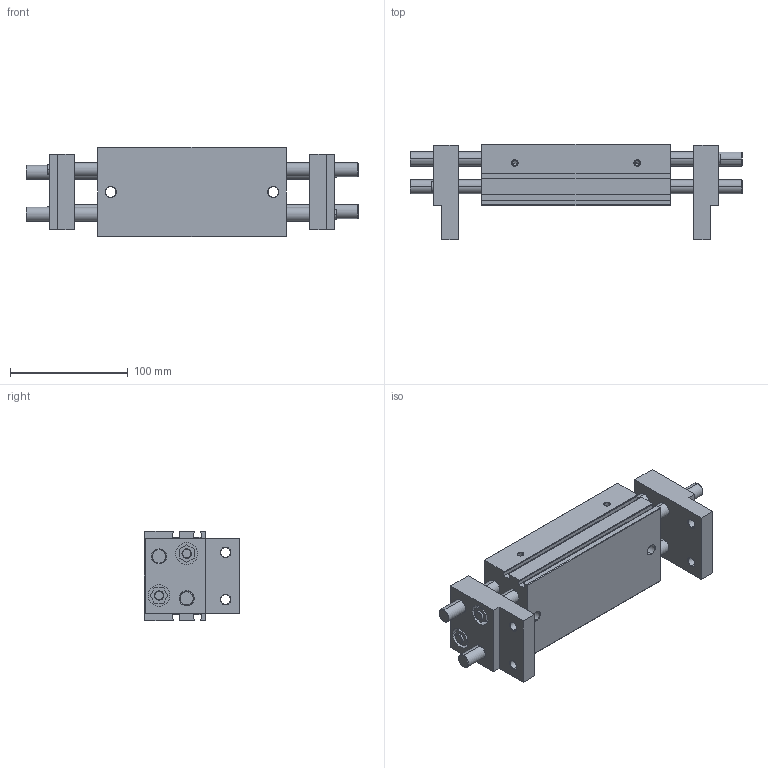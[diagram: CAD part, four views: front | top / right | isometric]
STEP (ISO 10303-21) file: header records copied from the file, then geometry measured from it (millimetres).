
FILE_DESCRIPTION (( 'STEP AP203' ), '1' );
FILE_NAME ('CHL2-25D2.STEP', '2017-06-06T20:13:54', ( '' ), ( '' ), 'SwSTEP 2.0', 'SolidWorks 2016', '' );
FILE_SCHEMA (( 'CONFIG_CONTROL_DESIGN' ));
Length unit declared in the file: millimetre
Products named in the file (3): CHL2-25D2 CORPO; CHL2-25D2 DEDO; CHL2-25D2
Assembly tree (3 placements, depth 2):
  CHL2-25D2
    CHL2-25D2 CORPO
    CHL2-25D2 DEDO  x2
Bounding box: 282 x 81 x 76 mm (x, y, z)
Volume: 789411.8 mm3; surface area: 163678 mm2
Topology: 3 solids, 3 shells, 347 faces, 813 edges, 507 vertices
Faces by surface type: cylinder 127, plane 125, cone 95
Entity records: 7819 total; most frequent: DIRECTION 1402, CARTESIAN_POINT 1255, ORIENTED_EDGE 1206, EDGE_CURVE 603, AXIS2_PLACEMENT_3D 530, VERTEX_POINT 383, VECTOR 342, LINE 342
